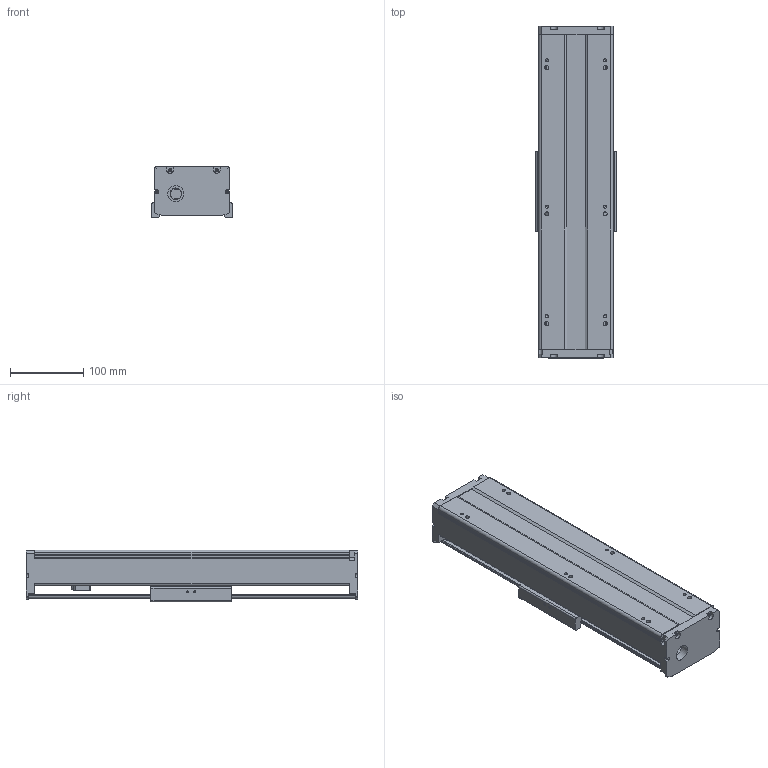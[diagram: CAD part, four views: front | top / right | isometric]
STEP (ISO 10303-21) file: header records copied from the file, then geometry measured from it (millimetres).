
FILE_DESCRIPTION(/* description */ (''),/* implementation_level */ '2;1');
FILE_NAME(/* name */ 'TKA100-200A1F0_asm1.stp',/* time_stamp */ '2017-02-20T15:00:26+08:00',/* author */ (''),/* organization */ (''),/* preprocessor_version */ 'ST-DEVELOPER v15',/* originating_system */ 'SIEMENS PLM Software NX 8.5',/* authorisation */ '');
FILE_SCHEMA (('AUTOMOTIVE_DESIGN { 1 0 10303 214 3 1 1 1 }'));
Length unit declared in the file: millimetre
Products named in the file (3): 200-02; 200-01; TKA100-200A1F0_asm1_stp
Assembly tree (2 placements, depth 2):
  TKA100-200A1F0_asm1_stp
    200-01
    200-02
Bounding box: 110 x 454 x 71 mm (x, y, z)
Volume: 1153928.8 mm3; surface area: 368250.6 mm2
Topology: 2 solids, 8 shells, 665 faces, 1779 edges, 1162 vertices
Faces by surface type: cylinder 255, plane 253, cone 104, torus 27, bspline 26
Full cylindrical faces by diameter (mm): 2.5 x6, 2.6 x8, 3.3 x8, 3.4 x8, 3.8 x4, 4.2 x15, 4.3 x4, 4.5 x4, 5 x1, 5.5 x14, 6.6 x4, 8 x5, 9 x4, 10 x6, 11 x4, 12 x6, 12.05 x2, 15.3 x1, 15.4 x1, 16 x1, 17 x2, 18 x1, 22 x1, 24 x1, 28 x5, 30 x1
Entity records: 25376 total; most frequent: CARTESIAN_POINT 9756, DIRECTION 3179, ORIENTED_EDGE 3016, EDGE_CURVE 1508, AXIS2_PLACEMENT_3D 1261, VERTEX_POINT 1095, EDGE_LOOP 946, ADVANCED_FACE 665
